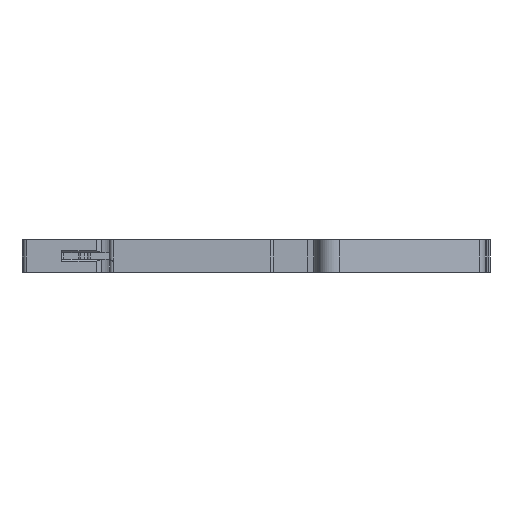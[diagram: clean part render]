
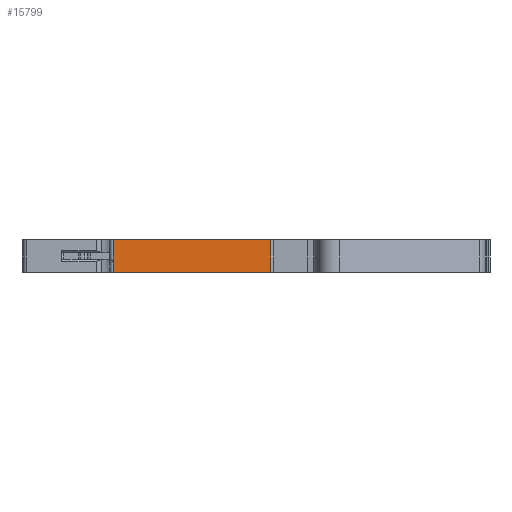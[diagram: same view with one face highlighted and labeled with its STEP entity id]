
A CAD part, front view. The second image highlights one B-rep face of the part: STEP entity #15799.
In plain terms, the highlighted planar face has unit normal (0, -1, 0).
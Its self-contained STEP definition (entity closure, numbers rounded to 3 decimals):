
#126 = DIRECTION ( 'NONE',  ( 1., 0., 0. ) ) ;
#310 = CARTESIAN_POINT ( 'NONE',  ( 136.272, -35.845, -101.162 ) ) ;
#1326 = VECTOR ( 'NONE', #8842, 1000. ) ;
#1375 = EDGE_CURVE ( 'NONE', #14653, #4117, #16014, .T. ) ;
#1804 = FACE_OUTER_BOUND ( 'NONE', #11537, .T. ) ;
#1856 = ORIENTED_EDGE ( 'NONE', *, *, #9708, .F. ) ;
#1981 = ORIENTED_EDGE ( 'NONE', *, *, #1375, .T. ) ;
#3059 = DIRECTION ( 'NONE',  ( 1., 0., 0. ) ) ;
#3128 = ORIENTED_EDGE ( 'NONE', *, *, #13344, .F. ) ;
#3239 = DIRECTION ( 'NONE',  ( 0., 0., -1. ) ) ;
#3553 = ORIENTED_EDGE ( 'NONE', *, *, #8062, .T. ) ;
#4117 = VERTEX_POINT ( 'NONE', #5392 ) ;
#4347 = LINE ( 'NONE', #15526, #7378 ) ;
#4352 = CARTESIAN_POINT ( 'NONE',  ( 136.272, -35.845, -104.537 ) ) ;
#4361 = PLANE ( 'NONE',  #13209 ) ;
#4712 = EDGE_CURVE ( 'NONE', #13941, #14653, #7137, .T. ) ;
#5392 = CARTESIAN_POINT ( 'NONE',  ( 136.272, -35.845, -106.312 ) ) ;
#5452 = VERTEX_POINT ( 'NONE', #12343 ) ;
#5947 = VECTOR ( 'NONE', #7473, 1000. ) ;
#6306 = CARTESIAN_POINT ( 'NONE',  ( 136.272, -35.845, -104.537 ) ) ;
#7128 = ORIENTED_EDGE ( 'NONE', *, *, #4712, .T. ) ;
#7137 = LINE ( 'NONE', #10161, #8024 ) ;
#7378 = VECTOR ( 'NONE', #3059, 1000. ) ;
#7473 = DIRECTION ( 'NONE',  ( 0., 0., -1. ) ) ;
#8024 = VECTOR ( 'NONE', #11698, 1000. ) ;
#8062 = EDGE_CURVE ( 'NONE', #4117, #5452, #4347, .T. ) ;
#8842 = DIRECTION ( 'NONE',  ( 1., 0., 0. ) ) ;
#9708 = EDGE_CURVE ( 'NONE', #12234, #5452, #11461, .T. ) ;
#9712 = CARTESIAN_POINT ( 'NONE',  ( 148.799, -35.845, -104.162 ) ) ;
#10161 = CARTESIAN_POINT ( 'NONE',  ( 136.272, -35.845, -101.162 ) ) ;
#11061 = CARTESIAN_POINT ( 'NONE',  ( 161.325, -35.845, -101.162 ) ) ;
#11461 = LINE ( 'NONE', #11061, #5947 ) ;
#11537 = EDGE_LOOP ( 'NONE', ( #3553, #1856, #3128, #7128, #1981 ) ) ;
#11698 = DIRECTION ( 'NONE',  ( 0., 0., -1. ) ) ;
#12234 = VERTEX_POINT ( 'NONE', #15233 ) ;
#12343 = CARTESIAN_POINT ( 'NONE',  ( 161.325, -35.845, -106.312 ) ) ;
#12492 = LINE ( 'NONE', #15069, #1326 ) ;
#13209 = AXIS2_PLACEMENT_3D ( 'NONE', #9712, #14904, #126 ) ;
#13344 = EDGE_CURVE ( 'NONE', #13941, #12234, #12492, .T. ) ;
#13941 = VERTEX_POINT ( 'NONE', #310 ) ;
#14653 = VERTEX_POINT ( 'NONE', #6306 ) ;
#14874 = VECTOR ( 'NONE', #3239, 1000. ) ;
#14904 = DIRECTION ( 'NONE',  ( 0., 1., 0. ) ) ;
#15069 = CARTESIAN_POINT ( 'NONE',  ( 136.272, -35.845, -101.162 ) ) ;
#15233 = CARTESIAN_POINT ( 'NONE',  ( 161.325, -35.845, -101.162 ) ) ;
#15526 = CARTESIAN_POINT ( 'NONE',  ( 136.272, -35.845, -106.312 ) ) ;
#15799 = ADVANCED_FACE ( 'NONE', ( #1804 ), #4361, .F. ) ;
#16014 = LINE ( 'NONE', #4352, #14874 ) ;
